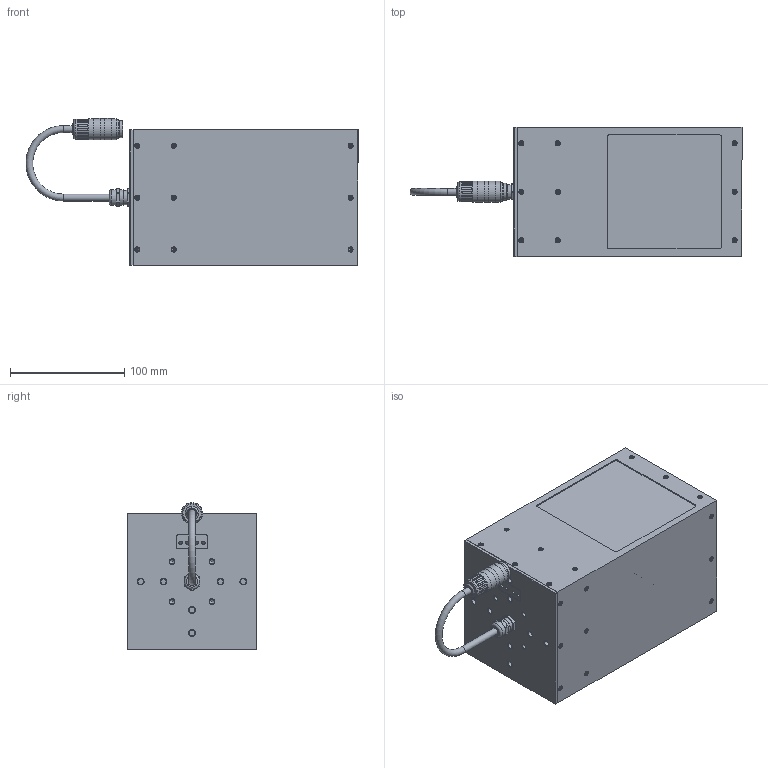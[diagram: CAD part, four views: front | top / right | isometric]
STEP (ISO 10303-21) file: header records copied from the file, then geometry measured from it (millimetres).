
FILE_DESCRIPTION(/* description */ ('Unknown','CAx-IF Rec.Pracs.---Representation and Presentation of Product Manufacturing Information (PMI)---4.0---2014-10-13','CAx-IF Rec.Pracs.---3D Tessellated Geometry---0.4---2014-09-14','2;1'),/* implementation_level */ '2;1');
FILE_NAME(/* name */ '10X.0084_LES100',/* time_stamp */ '2021-06-09T10:10:42+02:00',/* author */ ('AW'),/* organization */ ('iiM AG'),/* preprocessor_version */ 'ST-DEVELOPER v16.7',/* originating_system */ 'DEX',/* authorisation */ $);
FILE_SCHEMA (('AP242_MANAGED_MODEL_BASED_3D_ENGINEERING_MIM_LF { 1 0 10303 442 1 1 4 }'));
Products named in the file (1): LES100-LES100FL vereinfacht
Bounding box: 290.81 x 112.99 x 128.79 mm (x, y, z)
Volume: 584734.4 mm3; surface area: 282295.9 mm2
Topology: 17 solids, 17 shells, 1780 faces, 4727 edges, 3110 vertices
Faces by surface type: plane 926, cylinder 667, cone 101, torus 74, sphere 12
Full cylindrical faces by diameter (mm): 0.999 x12, 1.452 x36, 1.565 x6, 1.998 x36, 2.398 x36, 2.997 x4, 3.996 x2, 4.13 x8, 4.912 x24, 6 x2, 6.993 x3, 7.992 x1, 8.368 x1, 9.99 x1, 12.488 x1, 13.786 x2, 14.985 x1, 15.984 x1, 17.483 x1, 18.482 x3, 18.581 x2
Entity records: 63739 total; most frequent: CARTESIAN_POINT 9879, DIRECTION 8888, ORIENTED_EDGE 8346, EDGE_CURVE 4173, AXIS2_PLACEMENT_3D 3240, VERTEX_POINT 2945, LINE 2408, VECTOR 2408
